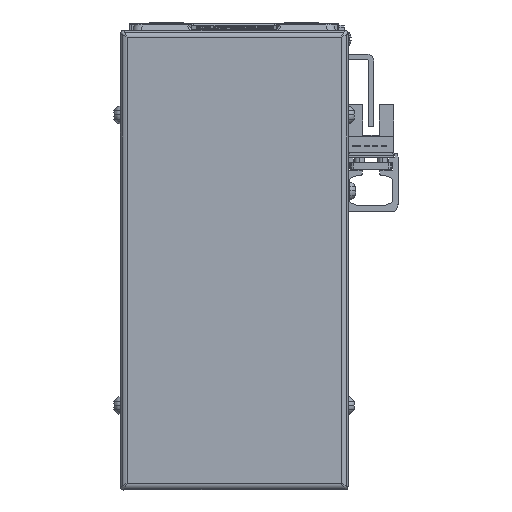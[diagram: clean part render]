
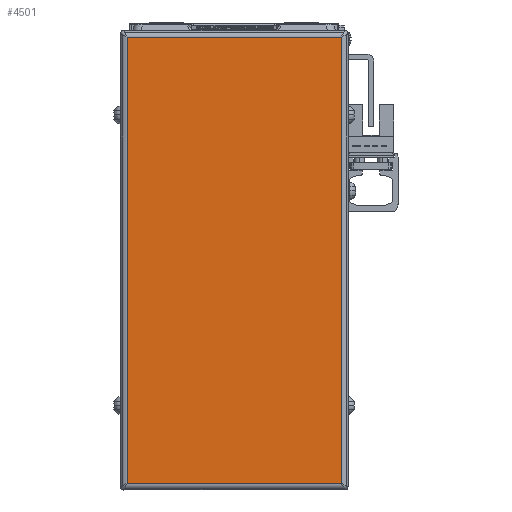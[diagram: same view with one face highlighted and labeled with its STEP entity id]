
A CAD part, left-side view. The second image highlights one B-rep face of the part: STEP entity #4501.
In plain terms, the highlighted planar face has unit normal (-1, 0, 0).
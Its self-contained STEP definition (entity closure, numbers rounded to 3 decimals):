
#4501=ADVANCED_FACE('',(#9392),#9393,.T.);
#9392=FACE_OUTER_BOUND('',#16330,.T.);
#9393=PLANE('',#16331);
#16330=EDGE_LOOP('',(#34766,#34767,#34768,#34769));
#16331=AXIS2_PLACEMENT_3D('',#34770,#34771,#34772);
#34766=ORIENTED_EDGE('',*,*,#40988,.F.);
#34767=ORIENTED_EDGE('',*,*,#40976,.F.);
#34768=ORIENTED_EDGE('',*,*,#40980,.F.);
#34769=ORIENTED_EDGE('',*,*,#40984,.F.);
#34770=CARTESIAN_POINT('',(-54.,0.,-42.5));
#34771=DIRECTION('',(-1.0,0.,0.));
#34772=DIRECTION('',(0.,0.,1.0));
#40976=EDGE_CURVE('',#50687,#50689,#50690,.T.);
#40980=EDGE_CURVE('',#50695,#50687,#50697,.T.);
#40984=EDGE_CURVE('',#50702,#50695,#50704,.T.);
#40988=EDGE_CURVE('',#50689,#50702,#50710,.T.);
#50687=VERTEX_POINT('',#65363);
#50689=VERTEX_POINT('',#65365);
#50690=LINE('',#65366,#65367);
#50695=VERTEX_POINT('',#65373);
#50697=LINE('',#65375,#65376);
#50702=VERTEX_POINT('',#65382);
#50704=LINE('',#65384,#65385);
#50710=LINE('',#65392,#65393);
#65363=CARTESIAN_POINT('',(-54.,31.7,-108.5));
#65365=CARTESIAN_POINT('',(-54.,31.7,23.5));
#65366=CARTESIAN_POINT('',(-54.,31.7,-42.5));
#65367=VECTOR('',#75175,10.0);
#65373=CARTESIAN_POINT('',(-54.,-31.7,-108.5));
#65375=CARTESIAN_POINT('',(-54.,0.,-108.5));
#65376=VECTOR('',#75183,10.0);
#65382=CARTESIAN_POINT('',(-54.,-31.7,23.5));
#65384=CARTESIAN_POINT('',(-54.0,-31.7,-42.5));
#65385=VECTOR('',#75191,10.0);
#65392=CARTESIAN_POINT('',(-54.,0.,23.5));
#65393=VECTOR('',#75199,10.0);
#75175=DIRECTION('',(0.,0.,1.0));
#75183=DIRECTION('',(0.,1.0,0.));
#75191=DIRECTION('',(0.,0.,-1.0));
#75199=DIRECTION('',(0.,-1.0,0.));
